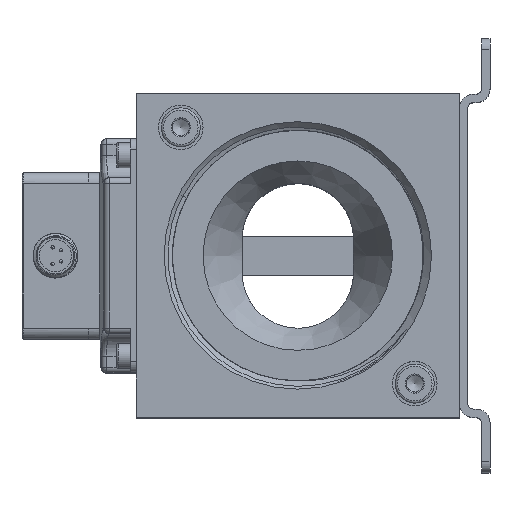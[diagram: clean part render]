
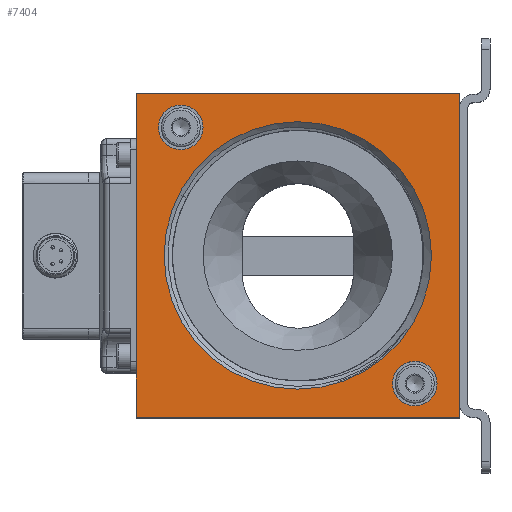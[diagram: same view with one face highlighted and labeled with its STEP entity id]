
A CAD part, top view. The second image highlights one B-rep face of the part: STEP entity #7404.
In plain terms, the highlighted planar face has unit normal (0, 0, 1).
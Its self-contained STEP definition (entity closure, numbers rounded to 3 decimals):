
#359=LINE('',#40652,#2780);
#360=LINE('',#40655,#2781);
#361=LINE('',#40657,#2782);
#362=LINE('',#40659,#2783);
#2780=VECTOR('',#32761,1.);
#2781=VECTOR('',#32762,1.);
#2782=VECTOR('',#32763,1.);
#2783=VECTOR('',#32764,1.);
#6610=FACE_BOUND('',#11686,.T.);
#6611=FACE_BOUND('',#11687,.T.);
#6612=FACE_BOUND('',#11688,.T.);
#6613=FACE_BOUND('',#11689,.T.);
#7404=ADVANCED_FACE('',(#6610,#6611,#6612,#6613),#9167,.F.);
#9167=PLANE('',#30067);
#11686=EDGE_LOOP('',(#13889,#13890,#13891,#13892));
#11687=EDGE_LOOP('',(#13893));
#11688=EDGE_LOOP('',(#13894));
#11689=EDGE_LOOP('',(#13895));
#13889=ORIENTED_EDGE('',*,*,#24948,.F.);
#13890=ORIENTED_EDGE('',*,*,#24949,.F.);
#13891=ORIENTED_EDGE('',*,*,#24950,.F.);
#13892=ORIENTED_EDGE('',*,*,#24951,.F.);
#13893=ORIENTED_EDGE('',*,*,#24952,.T.);
#13894=ORIENTED_EDGE('',*,*,#24953,.F.);
#13895=ORIENTED_EDGE('',*,*,#24954,.F.);
#22162=VERTEX_POINT('',#40653);
#22163=VERTEX_POINT('',#40654);
#22164=VERTEX_POINT('',#40656);
#22165=VERTEX_POINT('',#40658);
#22166=VERTEX_POINT('',#40661);
#22167=VERTEX_POINT('',#40663);
#22168=VERTEX_POINT('',#40665);
#24948=EDGE_CURVE('',#22162,#22163,#359,.T.);
#24949=EDGE_CURVE('',#22164,#22162,#360,.T.);
#24950=EDGE_CURVE('',#22165,#22164,#361,.T.);
#24951=EDGE_CURVE('',#22163,#22165,#362,.T.);
#24952=EDGE_CURVE('',#22166,#22166,#29082,.T.);
#24953=EDGE_CURVE('',#22167,#22167,#29083,.T.);
#24954=EDGE_CURVE('',#22168,#22168,#29084,.T.);
#29082=CIRCLE('',#30064,24.);
#29083=CIRCLE('',#30065,4.);
#29084=CIRCLE('',#30066,4.);
#30064=AXIS2_PLACEMENT_3D('',#40660,#32765,#32766);
#30065=AXIS2_PLACEMENT_3D('',#40662,#32767,#32768);
#30066=AXIS2_PLACEMENT_3D('',#40664,#32769,#32770);
#30067=AXIS2_PLACEMENT_3D('',#40666,#32771,#32772);
#32761=DIRECTION('',(-1.,0.,0.));
#32762=DIRECTION('',(0.,-1.,0.));
#32763=DIRECTION('',(1.,0.,0.));
#32764=DIRECTION('',(0.,1.,0.));
#32765=DIRECTION('',(0.,0.,-1.));
#32766=DIRECTION('',(0.,1.,0.));
#32767=DIRECTION('',(0.,0.,1.));
#32768=DIRECTION('',(-1.,0.,0.));
#32769=DIRECTION('',(0.,0.,1.));
#32770=DIRECTION('',(-1.,0.,0.));
#32771=DIRECTION('',(0.,0.,-1.));
#32772=DIRECTION('',(1.,0.,0.));
#40652=CARTESIAN_POINT('',(29.5,-1.5,14.));
#40653=CARTESIAN_POINT('',(58.5,-1.5,14.));
#40654=CARTESIAN_POINT('',(0.5,-1.5,14.));
#40655=CARTESIAN_POINT('',(58.5,27.5,14.));
#40656=CARTESIAN_POINT('',(58.5,56.5,14.));
#40657=CARTESIAN_POINT('',(29.5,56.5,14.));
#40658=CARTESIAN_POINT('',(0.5,56.5,14.));
#40659=CARTESIAN_POINT('',(0.5,27.5,14.));
#40660=CARTESIAN_POINT('',(29.5,27.5,14.));
#40661=CARTESIAN_POINT('',(29.5,51.5,14.));
#40662=CARTESIAN_POINT('',(50.5,4.5,14.));
#40663=CARTESIAN_POINT('',(46.5,4.5,14.));
#40664=CARTESIAN_POINT('',(8.5,50.5,14.));
#40665=CARTESIAN_POINT('',(4.5,50.5,14.));
#40666=CARTESIAN_POINT('',(29.5,27.5,14.));
